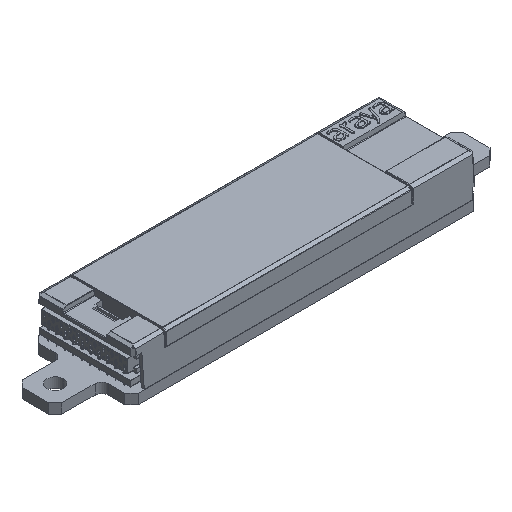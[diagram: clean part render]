
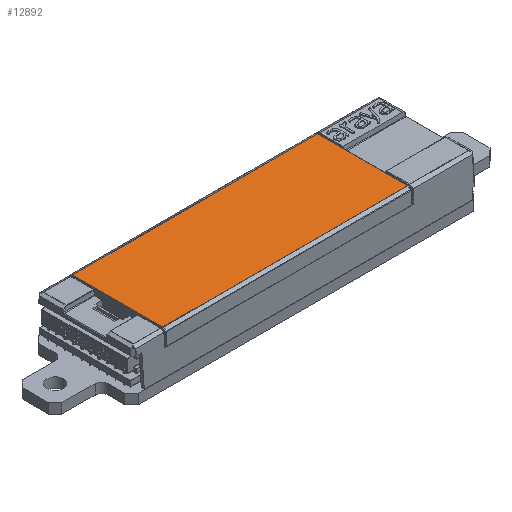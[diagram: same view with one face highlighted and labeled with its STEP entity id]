
A CAD part, isometric view. The second image highlights one B-rep face of the part: STEP entity #12892.
In plain terms, the highlighted planar face has unit normal (0, 0, 1).
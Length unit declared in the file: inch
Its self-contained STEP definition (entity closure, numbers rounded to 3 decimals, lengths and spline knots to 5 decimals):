
#419 = CARTESIAN_POINT ( 'NONE',  ( 1.26398, 0.53543, 0.59504 ) ) ;
#5683 = VERTEX_POINT ( 'NONE', #63410 ) ;
#6062 = CARTESIAN_POINT ( 'NONE',  ( -0.18701, -0.53385, 0.59504 ) ) ;
#7835 = LINE ( 'NONE', #44077, #58835 ) ;
#12396 = VERTEX_POINT ( 'NONE', #62009 ) ;
#12892 = ADVANCED_FACE ( 'NONE', ( #20937 ), #19976, .T. ) ;
#14747 = ORIENTED_EDGE ( 'NONE', *, *, #55419, .T. ) ;
#15477 = EDGE_CURVE ( 'NONE', #12396, #5683, #21226, .T. ) ;
#16917 = EDGE_LOOP ( 'NONE', ( #47825, #19129, #14747, #39228 ) ) ;
#18976 = CARTESIAN_POINT ( 'NONE',  ( -0.18701, 0.53385, 0.59504 ) ) ;
#19129 = ORIENTED_EDGE ( 'NONE', *, *, #58440, .T. ) ;
#19976 = PLANE ( 'NONE',  #39883 ) ;
#20937 = FACE_OUTER_BOUND ( 'NONE', #16917, .T. ) ;
#21226 = LINE ( 'NONE', #18976, #22790 ) ;
#22790 = VECTOR ( 'NONE', #63526, 39.37008 ) ;
#22862 = EDGE_CURVE ( 'NONE', #5683, #23704, #7835, .T. ) ;
#23704 = VERTEX_POINT ( 'NONE', #26653 ) ;
#24942 = CARTESIAN_POINT ( 'NONE',  ( -0.18701, 0., 0.59504 ) ) ;
#26653 = CARTESIAN_POINT ( 'NONE',  ( -1.638, -0.53385, 0.59504 ) ) ;
#29949 = DIRECTION ( 'NONE',  ( 1., 0., 0. ) ) ;
#31109 = DIRECTION ( 'NONE',  ( 1., 0., 0. ) ) ;
#36300 = VECTOR ( 'NONE', #31109, 39.37008 ) ;
#39228 = ORIENTED_EDGE ( 'NONE', *, *, #15477, .T. ) ;
#39883 = AXIS2_PLACEMENT_3D ( 'NONE', #24942, #59556, #29949 ) ;
#44077 = CARTESIAN_POINT ( 'NONE',  ( -1.638, -0.53543, 0.59504 ) ) ;
#47825 = ORIENTED_EDGE ( 'NONE', *, *, #22862, .T. ) ;
#49052 = DIRECTION ( 'NONE',  ( 0., -1., 0. ) ) ;
#52490 = CARTESIAN_POINT ( 'NONE',  ( 1.26398, -0.53385, 0.59504 ) ) ;
#55419 = EDGE_CURVE ( 'NONE', #63777, #12396, #60807, .T. ) ;
#58440 = EDGE_CURVE ( 'NONE', #23704, #63777, #62588, .T. ) ;
#58835 = VECTOR ( 'NONE', #49052, 39.37008 ) ;
#59239 = VECTOR ( 'NONE', #59633, 39.37008 ) ;
#59556 = DIRECTION ( 'NONE',  ( 0., 0., 1. ) ) ;
#59633 = DIRECTION ( 'NONE',  ( 0., 1., 0. ) ) ;
#60807 = LINE ( 'NONE', #419, #59239 ) ;
#62009 = CARTESIAN_POINT ( 'NONE',  ( 1.26398, 0.53385, 0.59504 ) ) ;
#62588 = LINE ( 'NONE', #6062, #36300 ) ;
#63410 = CARTESIAN_POINT ( 'NONE',  ( -1.638, 0.53385, 0.59504 ) ) ;
#63526 = DIRECTION ( 'NONE',  ( -1., 0., 0. ) ) ;
#63777 = VERTEX_POINT ( 'NONE', #52490 ) ;
